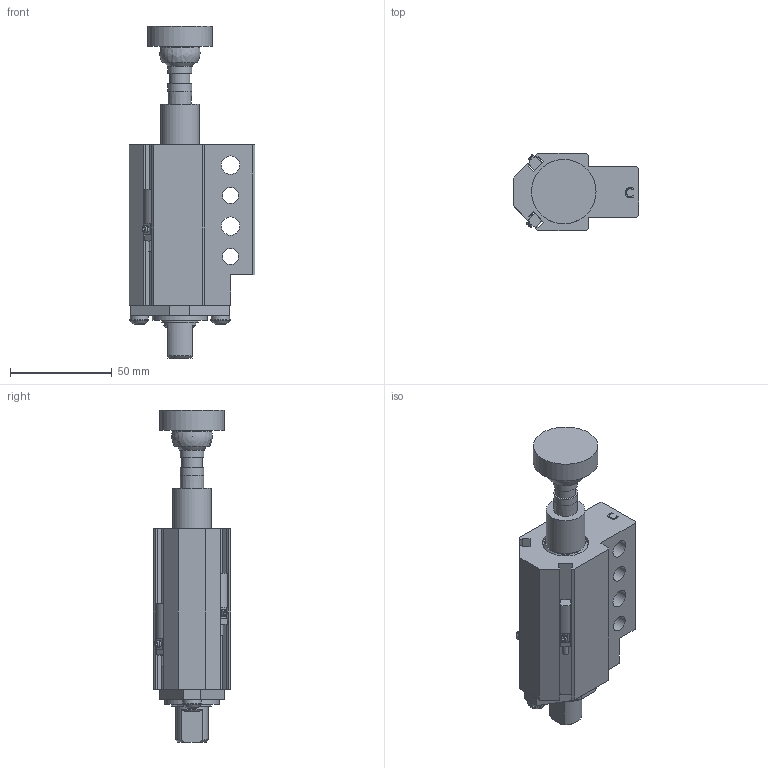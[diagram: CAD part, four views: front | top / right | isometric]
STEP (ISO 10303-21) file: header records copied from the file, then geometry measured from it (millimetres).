
FILE_DESCRIPTION(/* description */ ('MINI PASS THRU GROUND BLOCK'),/* implementation_level */ '2;1');
FILE_NAME(/* name */ 'C:\Vault Workspace\CAD\Welker\Cylinders\GBM\GBMCCL3.stp',/* time_stamp */ '2021-06-25T07:40:51-04:00',/* author */ ('KPL'),/* organization */ (''),/* preprocessor_version */ 'ST-DEVELOPER v18.1',/* originating_system */ 'Autodesk Inventor 2020',/* authorisation */ '');
FILE_SCHEMA (('AUTOMOTIVE_DESIGN { 1 0 10303 214 3 1 1 }'));
Products named in the file (11): GBML01; 91590A126; 96100A152; L3 Sensor 1; M5X0.8-10 BHCS; NL5; GBME01C; GBME02; GBME04; SN-1410; AN-05U2145
Assembly tree (13 placements, depth 2):
  GBML01
    91590A126
    96100A152
    L3 Sensor 1  x2
    M5X0.8-10 BHCS  x2
    NL5  x2
    GBME01C
    GBME02
    GBME04
    SN-1410
    AN-05U2145
Bounding box: 62 x 38.1 x 163.5 mm (x, y, z)
Volume: 137764.4 mm3; surface area: 50796.4 mm2
Topology: 13 solids, 13 shells, 445 faces, 1225 edges, 820 vertices
Faces by surface type: plane 304, cylinder 97, cone 18, bspline 18, torus 4, sphere 4
Full cylindrical faces by diameter (mm): 1.194 x2, 2.9 x2, 4.134 x2, 5 x2, 5.4 x2, 5.5 x2, 6.647 x1, 8 x2, 9 x4, 9.5 x2, 10 x1, 11.76 x2, 14.935 x1, 15.875 x3, 16.383 x1, 19.05 x1, 19.177 x1, 22.225 x2, 22.784 x1, 24.613 x1, 25.654 x1, 25.705 x1, 26.987 x1, 28.591 x1, 28.667 x1, 31.75 x1
Entity records: 10366 total; most frequent: CARTESIAN_POINT 1999, DIRECTION 1641, ORIENTED_EDGE 1630, EDGE_CURVE 815, AXIS2_PLACEMENT_3D 565, VERTEX_POINT 557, LINE 511, VECTOR 511
